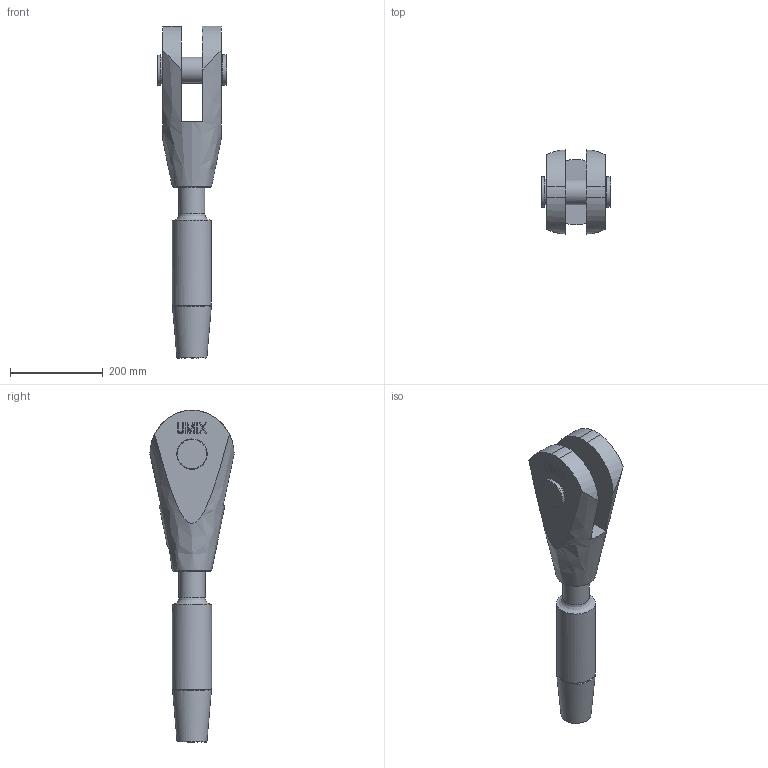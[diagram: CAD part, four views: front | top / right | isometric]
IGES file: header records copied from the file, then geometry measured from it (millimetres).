
Global section: file name: 520-056-GAK-ADA; native system: Autodesk Inventor 2016; preprocessor: unknown; author: Administrator; date: 20200703.131109; units: centimetre
Bounding box: 149.44 x 181.03 x 714.39 mm (x, y, z)
Volume: 5333525.3 mm3; surface area: 364952.9 mm2
Topology: 2 solids, 4 shells, 192 faces, 506 edges, 339 vertices
Faces by surface type: bspline 192
